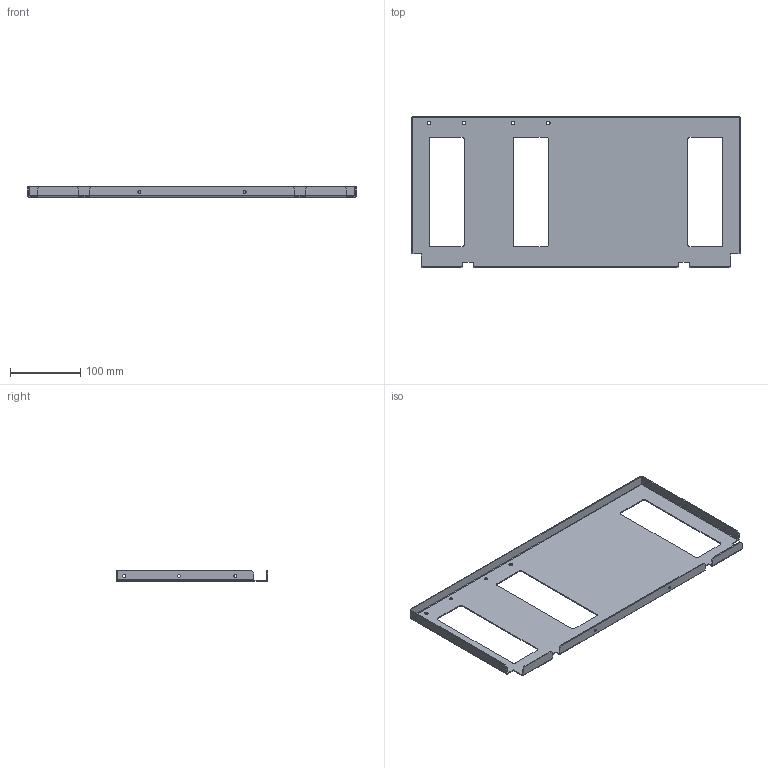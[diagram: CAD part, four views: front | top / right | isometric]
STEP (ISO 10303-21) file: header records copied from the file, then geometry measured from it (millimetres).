
FILE_DESCRIPTION(('CAx-IF Rec.Pracs.---Model Styling and Organization---1.2---2011-12-15','CAx-IF Rec.Pracs.---Geometric and Assembly Validation Properties---4.1---2014-06-16','CAx-IF Rec.Pracs.---PMI Polyline Presentation---2.0---2013-05-24'),'2;1');
FILE_NAME('R5M2W5M1BP.stp','2021-05-05T12:28:39+03:00',(''),(''),'STEP Interface 4.4 by CT CoreTechnologie','3D_Evolution4.4 by CT CoreTechnologie','');
FILE_SCHEMA(('AUTOMOTIVE_DESIGN { 1 0 10303 214 1 1 1 1 }'));
Length unit declared in the file: millimetre
Products named in the file (2): R5M2W5M1BP; RB.1511.00.00.0_-02
Assembly tree (1 placements, depth 2):
  R5M2W5M1BP
    RB.1511.00.00.0_-02
Bounding box: 469 x 216.5 x 15 mm (x, y, z)
Surface area: 191175 mm2 (no closed solid volume)
Topology: 0 solids, 1 shells, 109 faces, 299 edges, 192 vertices
Faces by surface type: plane 57, cylinder 48, bspline 4
Entity records: 3650 total; most frequent: CARTESIAN_POINT 678, DIRECTION 609, ORIENTED_EDGE 598, EDGE_CURVE 299, AXIS2_PLACEMENT_3D 203, VECTOR 203, LINE 203, VERTEX_POINT 192
